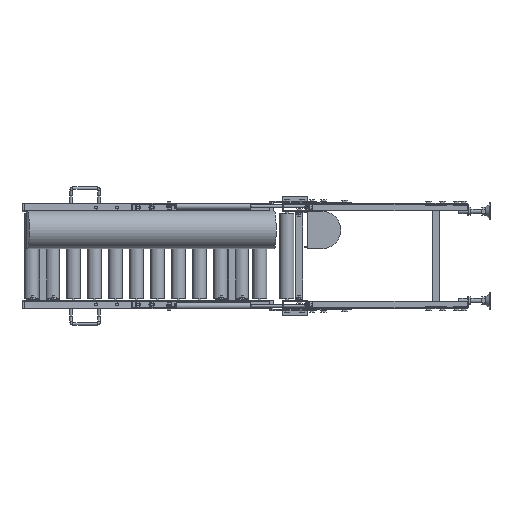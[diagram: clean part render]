
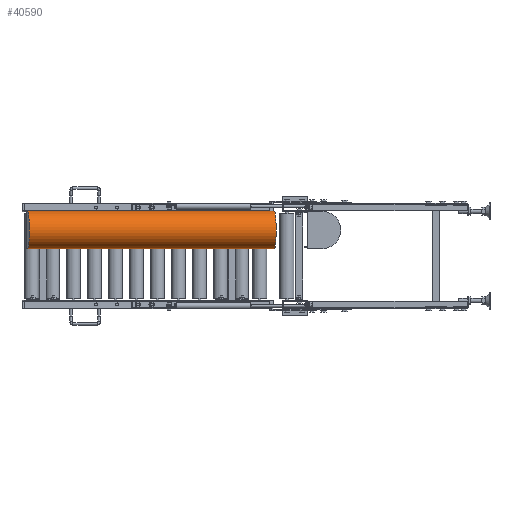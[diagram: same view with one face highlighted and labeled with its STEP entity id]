
A CAD part, left-side view. The second image highlights one B-rep face of the part: STEP entity #40590.
In plain terms, the highlighted cylindrical face has radius 66.89 mm (diameter 133.78 mm), a partial arc.
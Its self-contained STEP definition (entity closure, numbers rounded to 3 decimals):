
#108 = CARTESIAN_POINT ( 'NONE',  ( -155.735, 897.187, 92.61 ) ) ;
#1541 = DIRECTION ( 'NONE',  ( -0.087, 0.996, 0. ) ) ;
#3012 = ORIENTED_EDGE ( 'NONE', *, *, #60234, .F. ) ;
#4212 = VERTEX_POINT ( 'NONE', #47011 ) ;
#5409 = DIRECTION ( 'NONE',  ( -0.087, 0.996, 0. ) ) ;
#8878 = VERTEX_POINT ( 'NONE', #74285 ) ;
#9048 = ORIENTED_EDGE ( 'NONE', *, *, #62690, .T. ) ;
#12884 = DIRECTION ( 'NONE',  ( 0.087, -0.996, 0. ) ) ;
#14388 = EDGE_CURVE ( 'NONE', #48082, #4212, #22651, .T. ) ;
#17372 = CYLINDRICAL_SURFACE ( 'NONE', #55303, 66.89 ) ;
#20315 = LINE ( 'NONE', #46033, #63670 ) ;
#21239 = EDGE_CURVE ( 'NONE', #75316, #4212, #70547, .T. ) ;
#22651 = CIRCLE ( 'NONE', #27365, 66.89 ) ;
#27365 = AXIS2_PLACEMENT_3D ( 'NONE', #108, #71423, #35437 ) ;
#29539 = CARTESIAN_POINT ( 'NONE',  ( -63.444, -158.438, 92.61 ) ) ;
#29784 = DIRECTION ( 'NONE',  ( -0.087, 0.996, 0. ) ) ;
#32998 = FACE_OUTER_BOUND ( 'NONE', #59204, .T. ) ;
#35437 = DIRECTION ( 'NONE',  ( 0., 0., 1. ) ) ;
#36264 = CARTESIAN_POINT ( 'NONE',  ( -78.917, 18.539, 92.61 ) ) ;
#40590 = ADVANCED_FACE ( 'NONE', ( #32998 ), #17372, .T. ) ;
#46033 = CARTESIAN_POINT ( 'NONE',  ( -63.444, -158.438, 159.5 ) ) ;
#47011 = CARTESIAN_POINT ( 'NONE',  ( -155.735, 897.187, 25.72 ) ) ;
#47535 = CARTESIAN_POINT ( 'NONE',  ( -63.444, -158.438, 25.72 ) ) ;
#47769 = AXIS2_PLACEMENT_3D ( 'NONE', #36264, #12884, #54159 ) ;
#47910 = DIRECTION ( 'NONE',  ( 0., 0., 1. ) ) ;
#48082 = VERTEX_POINT ( 'NONE', #50726 ) ;
#50213 = VECTOR ( 'NONE', #1541, 1000. ) ;
#50726 = CARTESIAN_POINT ( 'NONE',  ( -155.735, 897.187, 159.5 ) ) ;
#54159 = DIRECTION ( 'NONE',  ( 0., 0., -1. ) ) ;
#55303 = AXIS2_PLACEMENT_3D ( 'NONE', #29539, #29784, #47910 ) ;
#59204 = EDGE_LOOP ( 'NONE', ( #3012, #9048, #70271, #72023 ) ) ;
#60234 = EDGE_CURVE ( 'NONE', #8878, #75316, #69583, .T. ) ;
#62690 = EDGE_CURVE ( 'NONE', #8878, #48082, #20315, .T. ) ;
#63402 = CARTESIAN_POINT ( 'NONE',  ( -78.917, 18.539, 25.72 ) ) ;
#63670 = VECTOR ( 'NONE', #5409, 1000. ) ;
#69583 = CIRCLE ( 'NONE', #47769, 66.89 ) ;
#70271 = ORIENTED_EDGE ( 'NONE', *, *, #14388, .T. ) ;
#70547 = LINE ( 'NONE', #47535, #50213 ) ;
#71423 = DIRECTION ( 'NONE',  ( 0.087, -0.996, 0. ) ) ;
#72023 = ORIENTED_EDGE ( 'NONE', *, *, #21239, .F. ) ;
#74285 = CARTESIAN_POINT ( 'NONE',  ( -78.917, 18.539, 159.5 ) ) ;
#75316 = VERTEX_POINT ( 'NONE', #63402 ) ;
